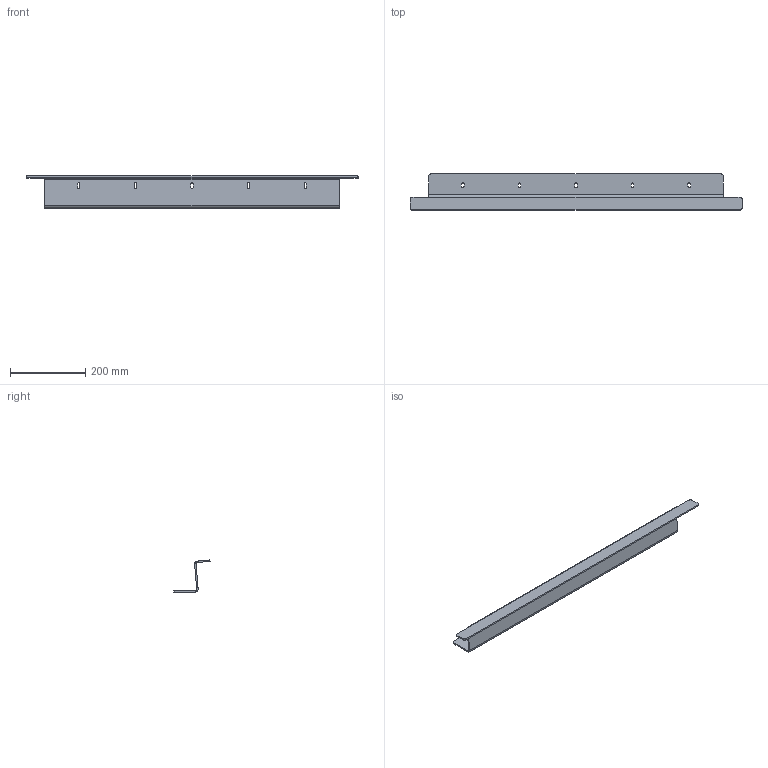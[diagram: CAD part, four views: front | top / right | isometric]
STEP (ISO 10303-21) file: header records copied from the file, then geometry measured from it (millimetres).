
FILE_DESCRIPTION(/* description */ (''),/* implementation_level */ '2;1');
FILE_NAME(/* name */ 'Light Curtain Top bracket.step',/* time_stamp */ '2026-05-13T10:48:48-07:00',/* author */ (''),/* organization */ (''),/* preprocessor_version */ 'ST-DEVELOPER v20.1',/* originating_system */ 'Autodesk Translation Framework v15.8.0.0',/* authorisation */ '');
FILE_SCHEMA (('AUTOMOTIVE_DESIGN { 1 0 10303 214 3 1 1 }'));
Length unit declared in the file: millimetre
Products named in the file (1): Light Curtain Top bracket
Bounding box: 880 x 96.03 x 85 mm (x, y, z)
Volume: 512613.4 mm3; surface area: 288355.2 mm2
Topology: 1 solids, 1 shells, 70 faces, 188 edges, 120 vertices
Faces by surface type: plane 40, cylinder 30
Entity records: 2257 total; most frequent: DIRECTION 390, CARTESIAN_POINT 379, ORIENTED_EDGE 376, EDGE_CURVE 188, AXIS2_PLACEMENT_3D 131, LINE 128, VECTOR 128, VERTEX_POINT 120
